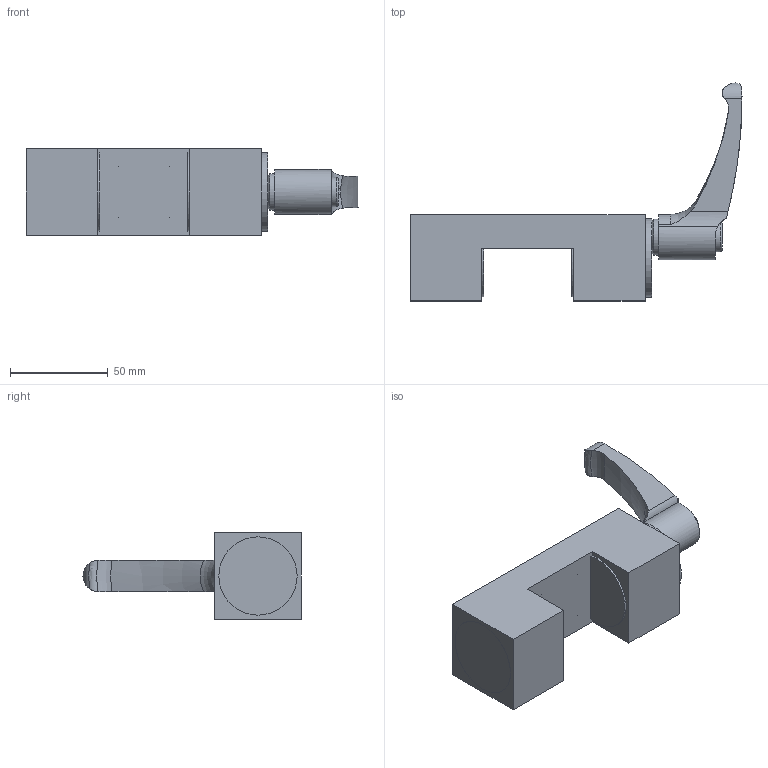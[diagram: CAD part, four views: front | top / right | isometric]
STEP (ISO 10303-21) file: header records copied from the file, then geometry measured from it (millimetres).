
FILE_DESCRIPTION(/* description */ ('STEP AP214'),/* implementation_level */ '2;1');
FILE_NAME(/* name */ 'HK4501A',/* time_stamp */ '2023-05-09T02:58:06+02:00',/* author */ ('License CC BY-ND 4.0'),/* organization */ ('CADENAS'),/* preprocessor_version */ 'ST-DEVELOPER v19.3',/* originating_system */ 'PARTsolutions',/* authorisation */ ' ');
FILE_SCHEMA (('AUTOMOTIVE_DESIGN {1 0 10303 214 3 1 1}'));
Length unit declared in the file: millimetre
Products named in the file (3): HK4501A; ELESA-Klemmhebel GN 604-78-M8-SG_NBK; ghkHK4501A166045
Assembly tree (2 placements, depth 2):
  HK4501A
    ELESA-Klemmhebel GN 604-78-M8-SG_NBK
    ghkHK4501A166045
Bounding box: 169.56 x 111.38 x 44 mm (x, y, z)
Volume: 205828.2 mm3; surface area: 34151.7 mm2
Topology: 2 solids, 2 shells, 64 faces, 164 edges, 109 vertices
Faces by surface type: plane 28, cylinder 17, torus 10, cone 9
Full cylindrical faces by diameter (mm): 6.647 x1, 8.376 x4, 18.5 x1, 40 x2
Entity records: 1928 total; most frequent: CARTESIAN_POINT 456, DIRECTION 276, ORIENTED_EDGE 270, EDGE_CURVE 135, AXIS2_PLACEMENT_3D 108, VERTEX_POINT 102, FACE_BOUND 91, EDGE_LOOP 87
